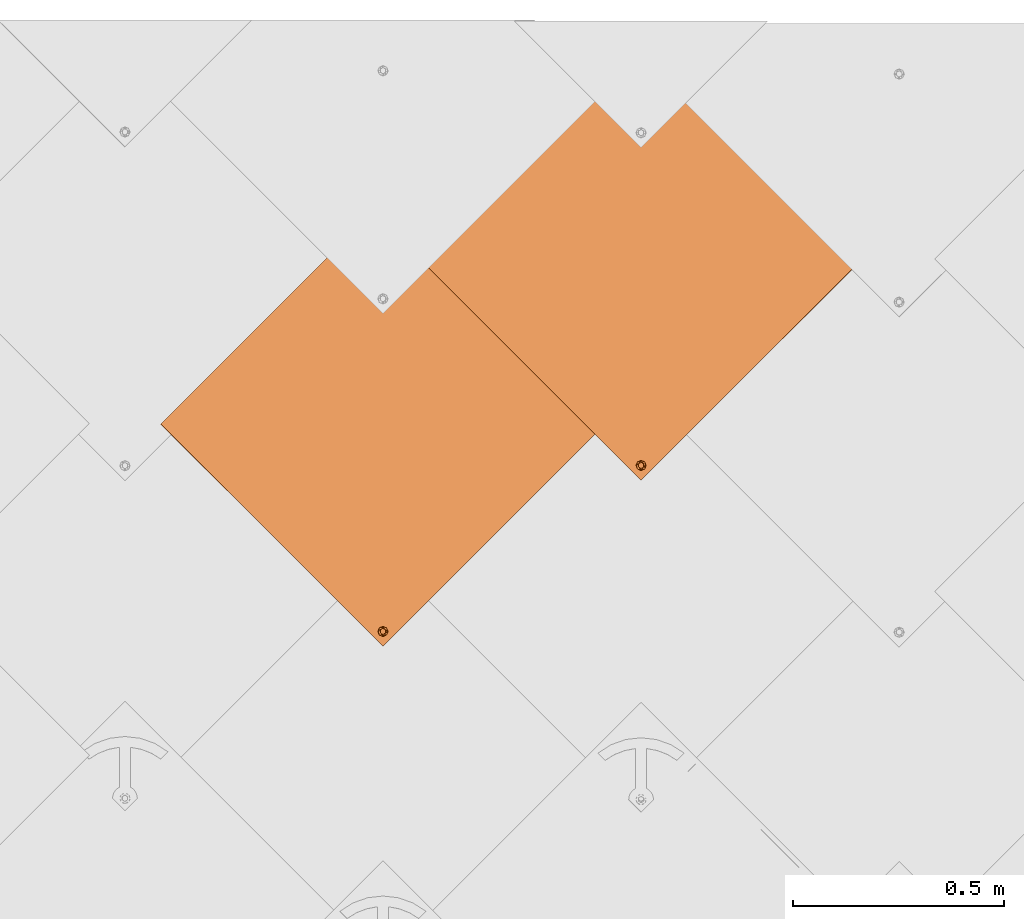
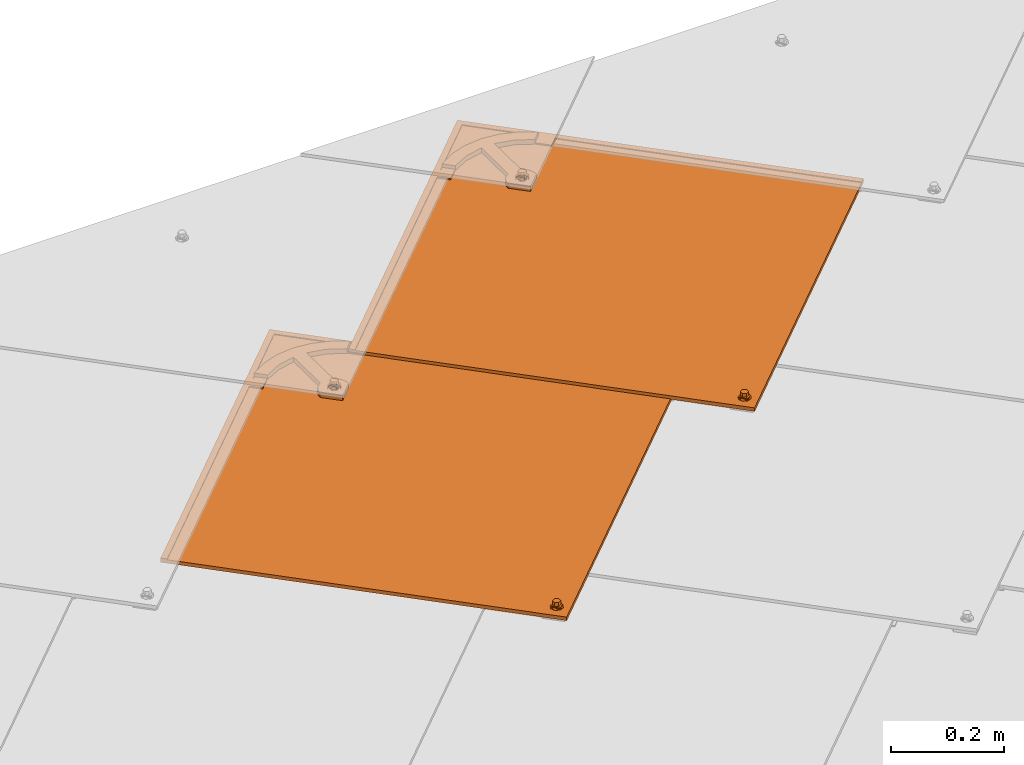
# One storey, part 84 of 151: 2 proxies.
"""IFC2X3 building model written with IfcOpenShell, lengths in millimetres."""

from ifc_helpers import new_model, entity, si_unit, converted_unit, derived_unit, direction, frame, origin, place, context, subcontext, project, spatial, faceted_brep, source, transform, mapped, material, material_list, type_object, type_shapes, element, save


model = new_model("IFC2X3")

# Units and contexts
model_context = context("Model", 3, precision=0.01, world=origin(), true_north=direction((6.12303176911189e-17, 1.0)))
body_context = subcontext(model_context, "Body", "Model", "MODEL_VIEW")
ifc_project = project(units=[si_unit("LENGTHUNIT", "METRE", prefix="MILLI"), si_unit("AREAUNIT", "SQUARE_METRE"), si_unit("VOLUMEUNIT", "CUBIC_METRE"), converted_unit("PLANEANGLEUNIT", "DEGREE", entity("IfcRatioMeasure", 0.0174532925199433), si_unit("PLANEANGLEUNIT", "RADIAN"), dimensions=[0, 0, 0, 0, 0, 0, 0]), si_unit("MASSUNIT", "GRAM", prefix="KILO"), derived_unit("MASSDENSITYUNIT", [(si_unit("MASSUNIT", "GRAM", prefix="KILO"), 1), (si_unit("LENGTHUNIT", "METRE"), -3)]), si_unit("TIMEUNIT", "SECOND"), si_unit("FREQUENCYUNIT", "HERTZ"), si_unit("THERMODYNAMICTEMPERATUREUNIT", "DEGREE_CELSIUS"), derived_unit("THERMALTRANSMITTANCEUNIT", [(si_unit("MASSUNIT", "GRAM", prefix="KILO"), 1), (si_unit("THERMODYNAMICTEMPERATUREUNIT", "KELVIN"), -1), (si_unit("TIMEUNIT", "SECOND"), -3)]), derived_unit("VOLUMETRICFLOWRATEUNIT", [(si_unit("LENGTHUNIT", "METRE"), 3), (si_unit("TIMEUNIT", "SECOND"), -1)]), si_unit("ELECTRICCURRENTUNIT", "AMPERE"), si_unit("ELECTRICVOLTAGEUNIT", "VOLT"), si_unit("POWERUNIT", "WATT"), si_unit("FORCEUNIT", "NEWTON", prefix="KILO"), si_unit("ILLUMINANCEUNIT", "LUX"), si_unit("LUMINOUSFLUXUNIT", "LUMEN"), si_unit("LUMINOUSINTENSITYUNIT", "CANDELA"), derived_unit("USERDEFINED", [(si_unit("MASSUNIT", "GRAM", prefix="KILO"), -1), (si_unit("LENGTHUNIT", "METRE"), -2), (si_unit("TIMEUNIT", "SECOND"), 3), (si_unit("LUMINOUSFLUXUNIT", "LUMEN"), 1)]), derived_unit("LINEARVELOCITYUNIT", [(si_unit("LENGTHUNIT", "METRE"), 1), (si_unit("TIMEUNIT", "SECOND"), -1)]), si_unit("PRESSUREUNIT", "PASCAL"), derived_unit("USERDEFINED", [(si_unit("LENGTHUNIT", "METRE"), -2), (si_unit("MASSUNIT", "GRAM", prefix="KILO"), 1), (si_unit("TIMEUNIT", "SECOND"), -2)])], contexts=[model_context])

# Site, building, storey
site_placement = place(None, origin())
site = spatial("IfcSite", under=ifc_project, at=site_placement, Name="Default", CompositionType="ELEMENT")
building_placement = place(site_placement, origin())
building = spatial("IfcBuilding", under=site, at=building_placement, CompositionType="ELEMENT")
storey_placement = place(building_placement, origin())
storey = spatial("IfcBuildingStorey", under=building, at=storey_placement, Name="Level 1", CompositionType="ELEMENT", Elevation=0.0)

# Proxies
ifc_material_1 = material(Name="Rubber - Sunstyle - Black")
ifc_material_2 = material(Name="Glass - Sunstyle - Tainted Black")
ifc_material_list_1 = material_list([ifc_material_1, ifc_material_2])
ifc_material_list_2 = material_list([ifc_material_1, ifc_material_2])
building_element_proxy_type = type_object("IfcBuildingElementProxyType", Name="Non PV Shingle - Black", PredefinedType="NOTDEFINED", material=ifc_material_list_2)
shared_shape = source(origin(), body_context, "Body", "Brep", [
    faceted_brep([(0.0, -485.159313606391, 4.00636906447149), (-5.77420283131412, -488.492583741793, 4.062193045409), (-5.77420283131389, -488.124274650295, 26.0540623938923), (0.0, -484.791004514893, 25.9982384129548), (-5.77420283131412, -495.159124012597, 4.17384100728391), (-5.7742028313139, -494.790814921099, 26.1657103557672), (0.0, -498.492394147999, 4.2296649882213), (0.0, -498.1240850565, 26.2215343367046), (5.77420283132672, -495.159124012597, 4.17384100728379), (5.77420283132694, -494.790814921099, 26.1657103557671), (5.77420283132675, -488.492583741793, 4.06219304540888), (5.77420283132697, -488.124274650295, 26.0540623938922), (-8.60370416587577, -500.060042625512, 26.2539568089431), (0.0, -503.623313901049, 26.3136327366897), (-12.1674751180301, -491.457544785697, 26.1098863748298), (-8.60370416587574, -482.855046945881, 25.9658159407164), (0.0, -479.291775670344, 25.9061400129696), (8.60370416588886, -482.855046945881, 25.9658159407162), (12.1674751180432, -491.457544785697, 26.1098863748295), (8.60370416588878, -500.060042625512, 26.2539568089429), (-11.3242446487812, -489.162467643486, 28.4227283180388), (-9.75647455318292, -491.386529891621, 30.3502110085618), (0.0, -484.073454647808, 30.9829114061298), (0.0, -482.832957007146, 30.4025647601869), (0.0, -480.675406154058, 29.3931896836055), (0.0, -503.067269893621, 27.5886907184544), (0.0, -502.123693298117, 29.7523951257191), (0.0, -498.67431759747, 31.227439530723), (0.0, -479.804811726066, 27.19910242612), (-6.32324569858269, -495.024101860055, 31.1663074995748), (-6.32324569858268, -487.723670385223, 31.0440434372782), (11.3242446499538, -493.673887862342, 28.4982833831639), (9.84888015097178, -492.460936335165, 30.2713428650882), (6.32324569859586, -487.723670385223, 31.0440434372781), (6.32324569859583, -495.024101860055, 31.1663074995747), (-6.32324569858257, -494.890073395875, 39.1691956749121), (0.0, -498.54028913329, 39.2303277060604), (0.0, -491.239857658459, 39.1080636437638), (-6.32324569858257, -487.589641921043, 39.0469316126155), (6.32324569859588, -494.890073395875, 39.169195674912), (6.32324569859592, -487.589641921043, 39.0469316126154), (0.0, -483.939426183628, 38.9857995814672), (0.0, -491.825853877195, 4.11801702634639)], [[[0, 1, 2, 3]], [[1, 4, 5, 2]], [[4, 6, 7, 5]], [[6, 8, 9, 7]], [[8, 10, 11, 9]], [[10, 0, 3, 11]], [[12, 7, 13]], [[7, 12, 5]], [[14, 5, 12]], [[5, 14, 2]], [[15, 2, 14]], [[3, 2, 15]], [[15, 16, 3]], [[16, 17, 3]], [[11, 3, 17]], [[11, 17, 18]], [[9, 11, 18]], [[18, 19, 9]], [[7, 9, 19]], [[19, 13, 7]], [[20, 14, 12]], [[21, 22, 23, 24]], [[24, 20, 21]], [[25, 20, 12]], [[26, 27, 21]], [[15, 14, 20]], [[12, 13, 25]], [[20, 28, 15]], [[28, 20, 24]], [[21, 27, 29]], [[21, 29, 30]], [[26, 21, 20]], [[20, 25, 26]], [[15, 28, 16]], [[21, 30, 22]], [[31, 18, 17]], [[28, 31, 17]], [[32, 27, 26]], [[26, 31, 32]], [[26, 25, 31]], [[25, 19, 31]], [[17, 16, 28]], [[31, 19, 18]], [[24, 31, 28]], [[33, 34, 32]], [[23, 22, 33]], [[24, 32, 31]], [[27, 32, 34]], [[32, 23, 33]], [[19, 25, 13]], [[32, 24, 23]], [[35, 36, 37]], [[37, 38, 35]], [[36, 39, 37]], [[40, 37, 39]], [[37, 40, 41]], [[37, 41, 38]], [[42, 6, 4]], [[4, 1, 42]], [[1, 0, 42]], [[42, 8, 6]], [[0, 10, 42]], [[8, 42, 10]], [[22, 30, 38, 41]], [[30, 29, 35, 38]], [[29, 27, 36, 35]], [[27, 34, 39, 36]], [[34, 33, 40, 39]], [[33, 22, 41, 40]]]),
    faceted_brep([(0.0, 284.789208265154, 20.3195200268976), (0.0, 289.288576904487, 20.2441667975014), (-8.60370416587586, 288.352479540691, 20.259844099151), (8.60370416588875, 288.352479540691, 20.2598440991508), (6.64022859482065, 293.121777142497, 20.1799702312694), (12.1674751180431, 296.954977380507, 20.1157736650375), (6.64022859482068, 300.788177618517, 20.0515770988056), (8.60370416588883, 305.557475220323, 19.9717032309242), (0.0, 304.621377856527, 19.9873805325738), (0.0, 309.12074649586, 19.9120273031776), (-8.60370416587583, 305.557475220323, 19.9717032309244), (-6.64022859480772, 300.788177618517, 20.0515770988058), (-12.1674751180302, 296.954977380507, 20.1157736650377), (-6.64022859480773, 293.121777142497, 20.1799702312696), (-6.6402282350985, 300.520254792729, 4.05382046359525), (0.0, 304.35345482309, 3.9896239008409), (-6.64022823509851, 292.853854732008, 4.18221358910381), (0.0, 289.020654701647, 4.24641015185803), (6.64022823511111, 292.853854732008, 4.18221358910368), (6.64022823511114, 300.520254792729, 4.05382046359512), (-8.60370416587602, 288.084556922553, 4.26208746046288), (0.0, 284.521285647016, 4.32176338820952), (-12.1674751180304, 296.687054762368, 4.11801702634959), (-8.603704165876, 305.289552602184, 3.97394659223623), (0.0, 308.852823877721, 3.91427066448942), (8.60370416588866, 305.289552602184, 3.97394659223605), (12.167475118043, 296.687054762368, 4.11801702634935), (8.60370416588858, 288.084556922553, 4.26208746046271)], [[[0, 1, 2]], [[1, 0, 3]], [[3, 4, 1]], [[4, 3, 5]], [[6, 4, 5]], [[5, 7, 6]], [[7, 8, 6]], [[8, 7, 9]], [[8, 9, 10]], [[10, 11, 8]], [[12, 11, 10]], [[2, 13, 12]], [[12, 13, 11]], [[13, 2, 1]], [[8, 11, 14, 15]], [[11, 13, 16, 14]], [[13, 1, 17, 16]], [[1, 4, 18, 17]], [[4, 6, 19, 18]], [[6, 8, 15, 19]], [[20, 17, 21]], [[17, 20, 16]], [[22, 16, 20]], [[14, 16, 22]], [[23, 14, 22]], [[15, 14, 23]], [[23, 24, 15]], [[24, 25, 15]], [[19, 15, 25]], [[19, 25, 26]], [[26, 18, 19]], [[26, 27, 18]], [[17, 18, 27]], [[27, 21, 17]], [[24, 23, 10, 9]], [[10, 23, 22, 12]], [[20, 21, 0, 2]], [[20, 2, 12, 22]], [[21, 27, 3, 0]], [[3, 27, 26, 5]], [[25, 24, 9, 7]], [[25, 7, 5, 26]]]),
    faceted_brep([(518.347125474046, -8.50591218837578, 16.4460771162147), (526.831811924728, -0.0212257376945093, 16.3039797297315), (526.831811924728, 0.00389200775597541, 17.8037694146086), (518.347125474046, -8.48079444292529, 17.9458668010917), (0.000322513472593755, 509.695546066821, 7.76749207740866), (-518.346480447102, -8.50591218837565, 16.4460771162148), (-526.831166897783, -0.021225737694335, 16.3039797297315), (0.000322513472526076, 526.662539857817, 7.48333714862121), (0.000322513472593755, 526.687657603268, 8.98312683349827), (-526.831166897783, 0.00389200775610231, 17.8037694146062), (-518.346480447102, -8.48079444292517, 17.9458668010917), (0.000322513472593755, 509.720663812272, 9.26728176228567)], [[[0, 1, 2, 3]], [[1, 0, 4, 5, 6, 7]], [[2, 1, 7, 8]], [[3, 2, 8, 9, 10, 11]], [[0, 3, 11, 4]], [[5, 10, 9, 6]], [[8, 7, 6, 9]], [[4, 11, 10, 5]]]),
    faceted_brep([(0.000322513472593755, 526.662539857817, 7.48333714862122), (-3.10582854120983, 308.054627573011, 11.1444757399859), (0.0, 308.46346032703, 11.1376288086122), (-6.0, 306.855990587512, 11.1645499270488), (3.10582854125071, 308.054627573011, 11.1444757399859), (6.0, 306.855990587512, 11.1645499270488), (8.4852813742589, 304.949234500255, 11.1964833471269), (10.3923048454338, 302.464301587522, 11.2380997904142), (-8.48528137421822, 304.949234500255, 11.1964833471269), (-10.3923048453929, 302.464301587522, 11.2380997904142), (-11.5911099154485, 299.570535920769, 11.2865631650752), (-526.831166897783, -0.0212257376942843, 16.3039797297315), (11.5911099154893, 299.570535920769, 11.2865631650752), (526.831811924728, -0.021225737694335, 16.3039797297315), (-12.0, 296.465142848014, 11.3385707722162), (-11.5911099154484, 293.359749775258, 11.3905783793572), (-10.392304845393, 290.465984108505, 11.4390417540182), (-8.48528137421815, 287.981051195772, 11.4806581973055), (-6.0, 286.074295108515, 11.5125916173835), (-3.10582854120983, 284.875658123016, 11.5326658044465), (-2.07055236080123, -483.623303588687, 24.4031112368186), (-4.0, -484.422394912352, 24.4164940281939), (-5.65685424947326, -485.693565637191, 24.4377829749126), (-6.92820323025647, -487.350187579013, 24.4655272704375), (-7.72740661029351, -489.279364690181, 24.4978361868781), (-8.0, -491.349626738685, 24.5325079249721), (-7.72740661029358, -493.419888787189, 24.5671796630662), (0.000322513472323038, -526.704991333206, 25.1246223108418), (-6.92820323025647, -495.349065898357, 24.5994885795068), (-5.65685424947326, -497.005687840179, 24.6272328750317), (-4.0, -498.276858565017, 24.6485218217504), (-2.0705523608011, -499.075949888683, 24.6619046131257), (0.0, -499.348505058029, 24.6664692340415), (2.07055236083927, -499.075949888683, 24.6619046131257), (4.0, -498.276858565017, 24.6485218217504), (5.65685424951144, -497.005687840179, 24.6272328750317), (6.92820323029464, -495.349065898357, 24.5994885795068), (7.72740661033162, -493.419888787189, 24.5671796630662), (12.0, 296.465142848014, 11.3385707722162), (11.5911099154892, 293.359749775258, 11.3905783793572), (10.3923048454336, 290.465984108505, 11.4390417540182), (8.4852813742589, 287.981051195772, 11.4806581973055), (6.0, 286.074295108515, 11.5125916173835), (3.10582854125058, 284.875658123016, 11.5326658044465), (2.07055236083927, -483.623303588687, 24.4031112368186), (4.0, -484.422394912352, 24.4164940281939), (5.65685424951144, -485.69356563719, 24.4377829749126), (8.0, -491.349626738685, 24.5325079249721), (7.72740661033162, -489.279364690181, 24.4978361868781), (6.92820323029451, -487.350187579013, 24.4655272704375), (0.0, 284.466825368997, 11.5395127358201), (0.0, -483.350748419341, 24.3985466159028), (-526.831166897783, -0.146814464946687, 8.80503130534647), (-6.92820323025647, -487.475776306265, 16.9665788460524), (-7.72740661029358, -489.404953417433, 16.9988877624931), (-5.65685424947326, -485.819154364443, 16.9388345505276), (-8.0, -491.475215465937, 17.0335595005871), (-7.72740661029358, -493.545477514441, 17.0682312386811), (0.000322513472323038, -526.830580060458, 17.6256738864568), (-4.0, -484.547983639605, 16.9175456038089), (-2.07055236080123, -483.748892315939, 16.9041628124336), (-3.10582854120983, 284.750069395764, 4.03371738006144), (-6.0, 285.948706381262, 4.01364319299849), (-8.48528137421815, 287.85546246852, 3.98170977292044), (-10.392304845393, 290.340395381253, 3.94009332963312), (-11.5911099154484, 293.234161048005, 3.89162995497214), (-12.0, 296.339554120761, 3.83962234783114), (-11.5911099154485, 299.444947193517, 3.78761474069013), (0.000322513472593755, 526.536951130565, -0.0156112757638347), (-10.3923048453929, 302.338712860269, 3.73915136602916), (-8.48528137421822, 304.823645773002, 3.69753492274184), (-6.0, 306.73040186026, 3.66560150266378), (-3.10582854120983, 307.929038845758, 3.64552731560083), (0.0, 308.337871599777, 3.63868038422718), (3.10582854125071, 307.929038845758, 3.64552731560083), (6.0, 306.73040186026, 3.66560150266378), (8.4852813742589, 304.823645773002, 3.69753492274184), (10.3923048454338, 302.338712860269, 3.73915136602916), (11.5911099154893, 299.444947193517, 3.78761474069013), (526.831811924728, -0.146814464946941, 8.80503130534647), (7.72740661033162, -493.545477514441, 17.0682312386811), (8.0, -491.475215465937, 17.0335595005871), (7.72740661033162, -489.404953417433, 16.9988877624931), (6.92820323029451, -487.475776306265, 16.9665788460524), (5.65685424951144, -485.819154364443, 16.9388345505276), (4.0, -484.547983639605, 16.9175456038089), (2.07055236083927, -483.748892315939, 16.9041628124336), (3.10582854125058, 284.750069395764, 4.03371738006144), (6.0, 285.948706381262, 4.01364319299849), (12.0, 296.339554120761, 3.83962234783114), (11.5911099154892, 293.234161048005, 3.89162995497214), (10.3923048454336, 290.340395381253, 3.94009332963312), (8.4852813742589, 287.85546246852, 3.98170977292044), (0.0, 284.341236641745, 4.04056431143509), (0.0, -483.476337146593, 16.8995981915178), (-6.92820323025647, -495.474654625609, 17.1005401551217), (-5.65685424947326, -497.131276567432, 17.1282844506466), (-4.0, -498.40244729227, 17.1495733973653), (-2.0705523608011, -499.201538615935, 17.1629561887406), (0.0, -499.474093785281, 17.1675208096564), (2.07055236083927, -499.201538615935, 17.1629561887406), (4.0, -498.40244729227, 17.1495733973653), (5.65685424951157, -497.131276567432, 17.1282844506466), (6.92820323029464, -495.474654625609, 17.1005401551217)], [[[0, 1, 2]], [[1, 0, 3]], [[0, 2, 4]], [[4, 5, 0]], [[5, 6, 0]], [[0, 6, 7]], [[8, 3, 0]], [[9, 8, 0]], [[9, 0, 10]], [[10, 0, 11]], [[12, 0, 7]], [[12, 13, 0]], [[11, 14, 10]], [[14, 11, 15]], [[16, 15, 11]], [[16, 11, 17]], [[18, 17, 11]], [[11, 19, 18]], [[19, 11, 20]], [[21, 20, 11]], [[11, 22, 21]], [[22, 11, 23]], [[23, 11, 24]], [[25, 24, 11]], [[25, 11, 26]], [[26, 11, 27]], [[27, 28, 26]], [[29, 28, 27]], [[30, 29, 27]], [[31, 30, 27]], [[27, 32, 31]], [[32, 27, 33]], [[34, 33, 27]], [[34, 27, 35]], [[36, 35, 27]], [[37, 36, 27]], [[37, 27, 13]], [[12, 38, 13]], [[39, 13, 38]], [[13, 39, 40]], [[13, 40, 41]], [[41, 42, 13]], [[42, 43, 13]], [[13, 43, 44]], [[45, 13, 44]], [[46, 13, 45]], [[47, 37, 13]], [[48, 47, 13]], [[49, 48, 13]], [[46, 49, 13]], [[20, 50, 19]], [[51, 50, 20]], [[44, 50, 51]], [[43, 50, 44]], [[52, 53, 54]], [[53, 52, 55]], [[52, 54, 56]], [[56, 57, 52]], [[52, 57, 58]], [[59, 55, 52]], [[60, 59, 52]], [[60, 52, 61]], [[61, 52, 62]], [[63, 62, 52]], [[64, 63, 52]], [[65, 64, 52]], [[66, 65, 52]], [[66, 52, 67]], [[52, 68, 67]], [[69, 67, 68]], [[70, 69, 68]], [[68, 71, 70]], [[71, 68, 72]], [[72, 68, 73]], [[74, 73, 68]], [[74, 68, 75]], [[76, 75, 68]], [[68, 77, 76]], [[77, 68, 78]], [[68, 79, 78]], [[58, 80, 79]], [[81, 79, 80]], [[81, 82, 79]], [[82, 83, 79]], [[84, 79, 83]], [[79, 84, 85]], [[85, 86, 79]], [[87, 79, 86]], [[87, 88, 79]], [[89, 78, 79]], [[79, 90, 89]], [[90, 79, 91]], [[92, 91, 79]], [[92, 79, 88]], [[93, 60, 61]], [[93, 86, 94]], [[94, 60, 93]], [[87, 86, 93]], [[58, 57, 95]], [[96, 58, 95]], [[96, 97, 58]], [[97, 98, 58]], [[99, 58, 98]], [[58, 99, 100]], [[58, 100, 101]], [[101, 102, 58]], [[102, 103, 58]], [[103, 80, 58]], [[11, 0, 68, 52]], [[27, 11, 52, 58]], [[13, 27, 58, 79]], [[0, 13, 79, 68]], [[25, 56, 54, 24]], [[24, 54, 53, 23]], [[21, 22, 55, 59]], [[55, 22, 23, 53]], [[20, 21, 59, 60]], [[20, 60, 94, 51]], [[51, 94, 86, 44]], [[44, 86, 85, 45]], [[49, 46, 84, 83]], [[84, 46, 45, 85]], [[48, 49, 83, 82]], [[48, 82, 81, 47]], [[47, 81, 80, 37]], [[37, 80, 103, 36]], [[34, 35, 102, 101]], [[102, 35, 36, 103]], [[33, 34, 101, 100]], [[33, 100, 99, 32]], [[32, 99, 98, 31]], [[31, 98, 97, 30]], [[28, 29, 96, 95]], [[96, 29, 30, 97]], [[26, 28, 95, 57]], [[26, 57, 56, 25]], [[14, 66, 67, 10]], [[10, 67, 69, 9]], [[3, 8, 70, 71]], [[70, 8, 9, 69]], [[1, 3, 71, 72]], [[1, 72, 73, 2]], [[2, 73, 74, 4]], [[4, 74, 75, 5]], [[7, 6, 76, 77]], [[76, 6, 5, 75]], [[12, 7, 77, 78]], [[12, 78, 89, 38]], [[38, 89, 90, 39]], [[39, 90, 91, 40]], [[42, 41, 92, 88]], [[40, 91, 92, 41]], [[87, 43, 42, 88]], [[43, 87, 93, 50]], [[50, 93, 61, 19]], [[19, 61, 62, 18]], [[16, 17, 63, 64]], [[63, 17, 18, 62]], [[15, 16, 64, 65]], [[15, 65, 66, 14]]]),
    faceted_brep([(-103.640919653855, 371.082989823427, 12.5892580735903), (-81.5635806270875, 393.15723338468, 12.2195694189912), (-98.1147183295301, 409.705441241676, 11.9424281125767), (-106.2656930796, 403.014562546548, 12.0544836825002), (-113.962762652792, 395.806279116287, 12.1752044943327), (-121.16572423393, 388.605337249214, 12.295802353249), (121.446435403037, 388.886009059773, 12.2911017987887), (110.715435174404, 399.614000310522, 12.1114346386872), (104.744439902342, 405.287275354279, 12.0164213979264), (98.4920378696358, 410.648923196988, 11.9266271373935), (98.074476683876, 410.231479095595, 11.933618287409), (98.234751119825, 410.108922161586, 11.9356708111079), (98.3948723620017, 409.986165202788, 11.9377266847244), (81.6917048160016, 393.285339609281, 12.2174239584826), (103.769043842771, 371.211096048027, 12.5871126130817), (-23.2046504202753, 315.000563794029, 21.029550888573), (-8.48528137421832, 305.451589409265, 21.1894724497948), (-18.7041061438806, 319.633569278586, 20.951959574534), (-10.392304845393, 302.966656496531, 21.2310888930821), (-26.5842195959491, 309.496413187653, 21.1217317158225), (-11.5911099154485, 300.072890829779, 21.2795522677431), (-28.6795527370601, 303.387013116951, 21.2240489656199), (-12.0, 296.967497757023, 21.3315598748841), (-29.3894280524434, 296.967497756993, 21.3315598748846), (-11.5911099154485, 293.862104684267, 21.3835674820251), (-10.392304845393, 290.968339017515, 21.4320308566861), (-8.48528137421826, 288.483406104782, 21.4736472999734), (0.0, 267.58219039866, 21.8236906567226), (-6.0, 286.576650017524, 21.5055807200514), (-3.10582854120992, 285.378013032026, 21.5256549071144), (0.0, 284.969180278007, 21.532501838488), (3.10582854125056, 285.378013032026, 21.5256549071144), (6.0, 286.576650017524, 21.5055807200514), (8.48528137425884, 288.483406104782, 21.4736472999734), (29.389428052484, 296.967497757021, 21.3315598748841), (10.3923048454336, 290.968339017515, 21.4320308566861), (11.5911099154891, 293.862104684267, 21.3835674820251), (12.0, 296.967497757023, 21.3315598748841), (28.6795527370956, 303.387013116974, 21.2240489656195), (11.5911099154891, 300.072890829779, 21.2795522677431), (26.5842195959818, 309.49641318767, 21.1217317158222), (10.3923048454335, 302.966656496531, 21.2310888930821), (23.2046504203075, 315.000563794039, 21.0295508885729), (8.48528137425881, 305.451589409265, 21.1894724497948), (18.7041061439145, 319.633569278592, 20.9519595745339), (6.0, 307.358345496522, 21.1575390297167), (13.3000000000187, 323.171617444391, 20.8927060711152), (3.10582854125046, 308.55698248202, 21.1374648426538), (0.0, 308.965815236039, 21.1306179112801), (-13.2999999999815, 323.171617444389, 20.8927060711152), (-13.2999999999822, 418.050603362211, 19.3037191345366), (13.3000000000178, 418.050603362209, 19.3037191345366), (0.0, 443.522216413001, 18.8771329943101), (34.9852699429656, 439.689674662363, 18.9413185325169), (48.8881158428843, 409.917561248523, 19.4399273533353), (68.3106161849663, 428.373889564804, 19.1308297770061), (81.1868897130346, 392.906184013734, 19.7248255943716), (98.3948723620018, 410.11175393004, 19.4366751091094), (-34.9852699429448, 439.689674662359, 18.941318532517), (-48.8881158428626, 409.917561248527, 19.4399273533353), (-68.3106161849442, 428.373889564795, 19.1308297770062), (-81.1868897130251, 392.906184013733, 19.7248255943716), (-98.3948723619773, 410.111753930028, 19.4366751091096), (-6.0, 307.358345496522, 21.1575390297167), (-3.10582854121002, 308.55698248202, 21.1374648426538), (0.0, 267.414738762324, 11.8250927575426), (0.0, 284.80172864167, 11.533903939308), (3.10582854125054, 285.210561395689, 11.5270570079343), (-3.10582854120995, 285.210561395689, 11.5270570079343), (6.0, 286.409198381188, 11.5069828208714), (8.48528137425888, 288.315954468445, 11.4750494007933), (29.389428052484, 296.800046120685, 11.332961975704), (-6.0, 286.409198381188, 11.5069828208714), (-8.48528137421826, 288.315954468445, 11.4750494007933), (-29.3894280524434, 296.800046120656, 11.3329619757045), (-10.392304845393, 290.800887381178, 11.433432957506), (-11.5911099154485, 293.694653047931, 11.384969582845), (-12.0, 296.800046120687, 11.332961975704), (-28.6795527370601, 303.219561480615, 11.2254510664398), (-11.5911099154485, 299.905439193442, 11.280954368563), (-26.5842195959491, 309.328961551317, 11.1231338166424), (-10.392304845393, 302.799204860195, 11.232490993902), (-23.2046504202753, 314.833112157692, 11.030952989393), (-8.48528137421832, 305.284137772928, 11.1908745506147), (-18.7041061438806, 319.466117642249, 10.9533616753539), (-6.0, 307.190893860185, 11.1589411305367), (-13.2999999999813, 323.004165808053, 10.8941081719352), (-3.10582854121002, 308.389530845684, 11.1388669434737), (0.0, 308.798363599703, 11.1320200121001), (13.3000000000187, 323.004165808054, 10.8941081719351), (13.3000000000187, 417.883151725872, 9.30512123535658), (-13.2999999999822, 417.883151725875, 9.30512123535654), (-0.199443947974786, 443.35464169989, 8.87853715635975), (-35.1150635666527, 439.493384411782, 8.94320360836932), (-48.8881158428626, 409.75010961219, 9.44132945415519), (-68.3708539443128, 428.178324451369, 9.13270270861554), (-81.5627248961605, 393.11622608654, 9.71990561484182), (-81.1868897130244, 392.738732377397, 9.72622769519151), (-98.1143736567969, 409.663842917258, 9.44277420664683), (-106.2656930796, 402.972699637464, 9.5548342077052), (-103.640919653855, 371.041126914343, 10.0896085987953), (-113.962762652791, 395.764416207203, 9.67555501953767), (-121.16572423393, 388.56347434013, 9.79615287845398), (-98.3948723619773, 409.944302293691, 9.43807720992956), (34.7256001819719, 439.579582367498, 8.94176000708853), (48.8881158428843, 409.750109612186, 9.44132945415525), (68.0092206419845, 428.346649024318, 9.12988369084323), (81.6917048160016, 393.243476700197, 9.71777448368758), (98.0744766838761, 410.189616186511, 9.43396881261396), (104.744439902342, 405.245412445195, 9.51677192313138), (98.4920378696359, 410.607060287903, 9.42697766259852), (110.715435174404, 399.572137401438, 9.61178516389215), (103.769043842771, 371.169233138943, 10.0874631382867), (121.446435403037, 388.844146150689, 9.7914523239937), (81.1868897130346, 392.738732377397, 9.7262276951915), (3.10582854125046, 308.389530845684, 11.1388669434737), (6.0, 307.190893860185, 11.1589411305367), (18.7041061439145, 319.466117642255, 10.9533616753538), (8.48528137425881, 305.284137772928, 11.1908745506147), (23.2046504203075, 314.833112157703, 11.0309529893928), (10.3923048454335, 302.799204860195, 11.232490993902), (26.5842195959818, 309.328961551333, 11.1231338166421), (11.5911099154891, 299.905439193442, 11.280954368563), (28.6795527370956, 303.219561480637, 11.2254510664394), (12.0, 296.800046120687, 11.332961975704), (10.3923048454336, 290.800887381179, 11.433432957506), (11.5911099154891, 293.694653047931, 11.384969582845)], [[[0, 1, 2, 3, 4, 5]], [[6, 7, 8, 9, 10, 11, 12, 13, 14]], [[15, 16, 17]], [[18, 16, 15]], [[19, 18, 15]], [[20, 18, 19]], [[19, 21, 20]], [[21, 22, 20]], [[22, 21, 23]], [[24, 22, 23]], [[25, 24, 23]], [[25, 23, 26]], [[23, 27, 26]], [[28, 26, 27]], [[28, 27, 29]], [[27, 30, 29]], [[30, 27, 31]], [[31, 27, 32]], [[33, 32, 27]], [[33, 27, 34]], [[34, 35, 33]], [[36, 35, 34]], [[37, 36, 34]], [[34, 38, 37]], [[39, 37, 38]], [[38, 40, 39]], [[40, 41, 39]], [[41, 40, 42]], [[43, 41, 42]], [[42, 44, 43]], [[45, 43, 44]], [[44, 46, 45]], [[45, 46, 47]], [[47, 46, 48]], [[46, 49, 48]], [[46, 50, 49]], [[46, 51, 50]], [[52, 50, 51]], [[51, 53, 52]], [[51, 54, 53]], [[53, 54, 55]], [[54, 56, 55]], [[56, 57, 55]], [[58, 50, 52]], [[50, 58, 59]], [[60, 59, 58]], [[60, 61, 59]], [[61, 60, 62]], [[63, 49, 17]], [[63, 64, 49]], [[49, 64, 48]], [[63, 17, 16]], [[65, 66, 67]], [[66, 65, 68]], [[65, 67, 69]], [[69, 70, 65]], [[65, 70, 71]], [[72, 68, 65]], [[72, 65, 73]], [[73, 65, 74]], [[74, 75, 73]], [[75, 74, 76]], [[76, 74, 77]], [[78, 77, 74]], [[79, 77, 78]], [[78, 80, 79]], [[79, 80, 81]], [[80, 82, 81]], [[83, 81, 82]], [[84, 83, 82]], [[84, 85, 83]], [[86, 85, 84]], [[86, 87, 85]], [[88, 87, 86]], [[89, 88, 86]], [[89, 86, 90]], [[91, 90, 86]], [[91, 92, 90]], [[92, 91, 93]], [[94, 93, 91]], [[93, 94, 95]], [[94, 96, 95]], [[94, 97, 96]], [[98, 95, 96]], [[99, 98, 96]], [[96, 100, 99]], [[99, 100, 101]], [[102, 101, 100]], [[95, 98, 103]], [[104, 90, 92]], [[90, 104, 105]], [[106, 105, 104]], [[107, 105, 106]], [[106, 108, 107]], [[108, 109, 107]], [[109, 108, 110]], [[111, 107, 109]], [[111, 112, 107]], [[113, 112, 111]], [[107, 114, 105]], [[115, 88, 89]], [[116, 115, 89]], [[116, 89, 117]], [[117, 118, 116]], [[119, 118, 117]], [[119, 120, 118]], [[119, 121, 120]], [[121, 122, 120]], [[122, 121, 123]], [[71, 124, 123]], [[124, 122, 123]], [[71, 70, 125]], [[125, 126, 71]], [[126, 124, 71]], [[49, 50, 91, 86]], [[17, 49, 86, 84]], [[15, 17, 84, 82]], [[82, 80, 19, 15]], [[21, 19, 80, 78]], [[23, 21, 78, 74]], [[27, 23, 74, 65]], [[0, 5, 102, 100]], [[34, 27, 65, 71]], [[6, 14, 112, 113]], [[38, 34, 71, 123]], [[40, 38, 123, 121]], [[121, 119, 42, 40]], [[44, 42, 119, 117]], [[46, 44, 117, 89]], [[51, 46, 89, 90]], [[11, 10, 57]], [[108, 106, 10]], [[10, 106, 55]], [[12, 11, 57]], [[57, 10, 55]], [[106, 53, 55]], [[106, 104, 53]], [[52, 104, 92]], [[92, 93, 58]], [[95, 60, 93]], [[52, 92, 58]], [[95, 62, 60]], [[60, 58, 93]], [[62, 95, 103]], [[104, 52, 53]], [[22, 77, 79, 20]], [[20, 79, 81, 18]], [[63, 16, 83, 85]], [[81, 83, 16, 18]], [[64, 63, 85, 87]], [[88, 48, 64, 87]], [[47, 115, 116, 45]], [[45, 116, 118, 43]], [[39, 41, 120, 122]], [[118, 120, 41, 43]], [[37, 39, 122, 124]], [[47, 48, 88, 115]], [[37, 124, 126, 36]], [[36, 126, 125, 35]], [[32, 33, 70, 69]], [[125, 70, 33, 35]], [[31, 32, 69, 67]], [[66, 30, 31, 67]], [[29, 68, 72, 28]], [[28, 72, 73, 26]], [[24, 25, 75, 76]], [[73, 75, 25, 26]], [[22, 24, 76, 77]], [[29, 30, 66, 68]], [[7, 6, 113, 111]], [[7, 111, 109, 8]], [[109, 110, 9, 8]], [[14, 13, 107, 112]], [[1, 0, 100, 96]], [[2, 98, 3]], [[3, 98, 99]], [[99, 101, 4, 3]], [[5, 4, 101, 102]], [[97, 94, 59, 61]], [[91, 50, 59, 94]], [[90, 105, 54, 51]], [[114, 56, 54, 105]], [[10, 9, 110, 108]], [[62, 2, 1]], [[2, 62, 103]], [[61, 62, 1, 97]], [[103, 98, 2]], [[96, 97, 1]], [[57, 56, 114, 107, 13, 12]]]),
])
type_shapes(building_element_proxy_type, [shared_shape])
proxy_1_placement = place(storey_placement, frame((-17152.862554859, 16254.5705537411, 0.0)))
element("IfcBuildingElementProxy", 1, at=proxy_1_placement, inside=storey, type_object=building_element_proxy_type, material=ifc_material_list_1, Name="Roofing_Panels_SunStyle_Tile_Non-PV-Shingle:Non PV Shingle - Black", ObjectType="Roofing_Panels_SunStyle_Tile_Non-PV-Shingle:Non PV Shingle - Black", context=body_context, shape_type="MappedRepresentation", body=[
    mapped(shared_shape, transform((0.0, 0.0, 0.0), scale=1.0)),
])
ifc_material_list_3 = material_list([ifc_material_1, ifc_material_2])
proxy_2_placement = place(storey_placement, frame((-17764.4246150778, 15861.2891061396, 0.0)))
element("IfcBuildingElementProxy", 2, at=proxy_2_placement, inside=storey, type_object=building_element_proxy_type, material=ifc_material_list_3, Name="Roofing_Panels_SunStyle_Tile_Non-PV-Shingle:Non PV Shingle - Black", ObjectType="Roofing_Panels_SunStyle_Tile_Non-PV-Shingle:Non PV Shingle - Black", context=body_context, shape_type="MappedRepresentation", body=[
    mapped(shared_shape, transform((0.0, 0.0, 0.0), scale=1.0)),
])

save(model, "model.ifc")
